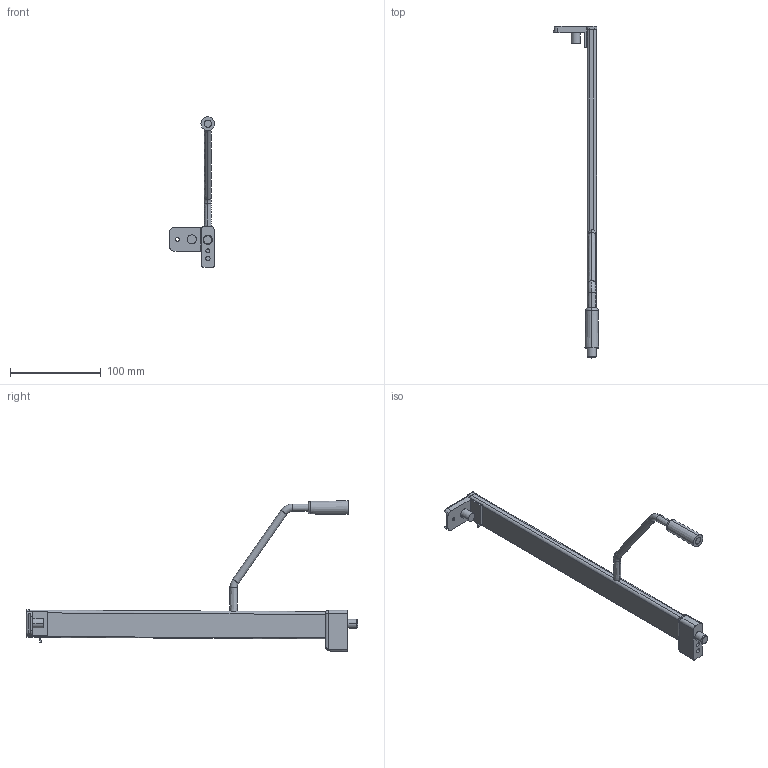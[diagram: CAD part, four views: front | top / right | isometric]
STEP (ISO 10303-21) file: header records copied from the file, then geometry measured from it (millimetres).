
FILE_DESCRIPTION (( 'STEP AP214' ), '1' );
FILE_NAME ('_2S_REL_7606_NL350_RE_Frontstütze.step', '2010-07-01T14:41:52', ( 'grass' ), ( '' ), 'SwSTEP 2.0', 'SolidWorks 2009', '' );
FILE_SCHEMA (( 'AUTOMOTIVE_DESIGN' ));
Length unit declared in the file: millimetre
Products named in the file (1): _2S_REL_7606_NL350_RE_Frontstütze
Bounding box: 49.75 x 365.5 x 165.5 mm (x, y, z)
Volume: 137840.9 mm3; surface area: 39764.1 mm2
Topology: 2 solids, 2 shells, 142 faces, 337 edges, 203 vertices
Faces by surface type: cylinder 60, plane 46, bspline 16, torus 12, cone 6, sphere 2
Entity records: 5372 total; most frequent: CARTESIAN_POINT 2200, ORIENTED_EDGE 670, DIRECTION 647, EDGE_CURVE 335, AXIS2_PLACEMENT_3D 247, VERTEX_POINT 203, LINE 153, VECTOR 153
